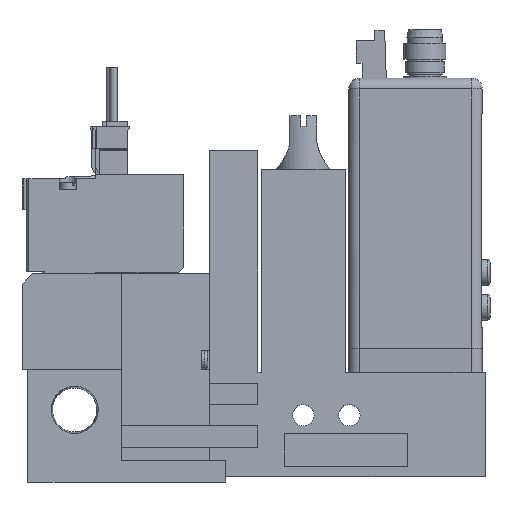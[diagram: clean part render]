
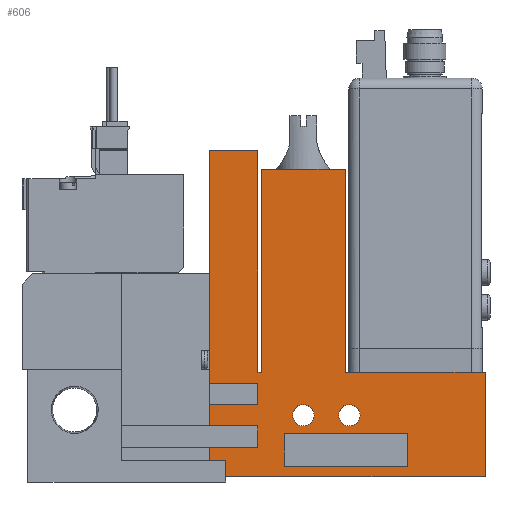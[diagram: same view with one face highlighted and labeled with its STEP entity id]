
A CAD part, top view. The second image highlights one B-rep face of the part: STEP entity #606.
In plain terms, the highlighted planar face has unit normal (0, 0, 1).
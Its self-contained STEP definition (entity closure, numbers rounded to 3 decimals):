
#606=ADVANCED_FACE('',(#1686,#1687,#1688,#1689),#1690,.T.);
#1686=FACE_OUTER_BOUND('',#3420,.T.);
#1687=FACE_BOUND('',#3421,.T.);
#1688=FACE_BOUND('',#3422,.T.);
#1689=FACE_BOUND('',#3423,.T.);
#1690=PLANE('',#3424);
#3420=EDGE_LOOP('',(#6887,#6888,#6889,#6890,#6891,#6892,#6893,#6894,#6895,#6896,#6897,#6898,#6899,#6900,#6901,#6902,#6903,#6904));
#3421=EDGE_LOOP('',(#6905,#6906,#6907,#6908));
#3422=EDGE_LOOP('',(#6909));
#3423=EDGE_LOOP('',(#6910));
#3424=AXIS2_PLACEMENT_3D('',#6911,#6912,#6913);
#6887=ORIENTED_EDGE('',*,*,#11531,.T.);
#6888=ORIENTED_EDGE('',*,*,#11437,.T.);
#6889=ORIENTED_EDGE('',*,*,#11532,.T.);
#6890=ORIENTED_EDGE('',*,*,#11533,.T.);
#6891=ORIENTED_EDGE('',*,*,#11534,.T.);
#6892=ORIENTED_EDGE('',*,*,#11522,.T.);
#6893=ORIENTED_EDGE('',*,*,#11535,.T.);
#6894=ORIENTED_EDGE('',*,*,#11518,.T.);
#6895=ORIENTED_EDGE('',*,*,#11536,.T.);
#6896=ORIENTED_EDGE('',*,*,#11492,.T.);
#6897=ORIENTED_EDGE('',*,*,#11516,.T.);
#6898=ORIENTED_EDGE('',*,*,#11514,.T.);
#6899=ORIENTED_EDGE('',*,*,#11408,.T.);
#6900=ORIENTED_EDGE('',*,*,#11405,.T.);
#6901=ORIENTED_EDGE('',*,*,#11412,.T.);
#6902=ORIENTED_EDGE('',*,*,#11499,.T.);
#6903=ORIENTED_EDGE('',*,*,#11497,.T.);
#6904=ORIENTED_EDGE('',*,*,#11501,.T.);
#6905=ORIENTED_EDGE('',*,*,#11537,.T.);
#6906=ORIENTED_EDGE('',*,*,#11430,.T.);
#6907=ORIENTED_EDGE('',*,*,#11538,.T.);
#6908=ORIENTED_EDGE('',*,*,#11539,.T.);
#6909=ORIENTED_EDGE('',*,*,#11506,.T.);
#6910=ORIENTED_EDGE('',*,*,#11540,.T.);
#6911=CARTESIAN_POINT('',(0.0,0.0,10.0));
#6912=DIRECTION('',(0.0,0.0,1.0));
#6913=DIRECTION('',(1.0,0.0,0.0));
#11405=EDGE_CURVE('',#13936,#13934,#13937,.T.);
#11408=EDGE_CURVE('',#13941,#13936,#13942,.T.);
#11412=EDGE_CURVE('',#13934,#13946,#13948,.T.);
#11430=EDGE_CURVE('',#13975,#13980,#13982,.T.);
#11437=EDGE_CURVE('',#13987,#13994,#13996,.T.);
#11492=EDGE_CURVE('',#14096,#14094,#14097,.T.);
#11497=EDGE_CURVE('',#14104,#14102,#14105,.T.);
#11499=EDGE_CURVE('',#13946,#14104,#14107,.T.);
#11501=EDGE_CURVE('',#14102,#14108,#14110,.T.);
#11506=EDGE_CURVE('',#14115,#14115,#14116,.T.);
#11514=EDGE_CURVE('',#14130,#13941,#14131,.T.);
#11516=EDGE_CURVE('',#14094,#14130,#14133,.T.);
#11518=EDGE_CURVE('',#14136,#14134,#14137,.T.);
#11522=EDGE_CURVE('',#14143,#14144,#14145,.T.);
#11531=EDGE_CURVE('',#14108,#13987,#14160,.T.);
#11532=EDGE_CURVE('',#13994,#14161,#14162,.T.);
#11533=EDGE_CURVE('',#14161,#14163,#14164,.T.);
#11534=EDGE_CURVE('',#14163,#14143,#14165,.T.);
#11535=EDGE_CURVE('',#14144,#14136,#14166,.T.);
#11536=EDGE_CURVE('',#14134,#14096,#14167,.T.);
#11537=EDGE_CURVE('',#14168,#13975,#14169,.T.);
#11538=EDGE_CURVE('',#13980,#14170,#14171,.T.);
#11539=EDGE_CURVE('',#14170,#14168,#14172,.T.);
#11540=EDGE_CURVE('',#14173,#14173,#14174,.T.);
#13934=VERTEX_POINT('',#17852);
#13936=VERTEX_POINT('',#17855);
#13937=LINE('',#17856,#17857);
#13941=VERTEX_POINT('',#17863);
#13942=LINE('',#17864,#17865);
#13946=VERTEX_POINT('',#17871);
#13948=LINE('',#17874,#17875);
#13975=VERTEX_POINT('',#17914);
#13980=VERTEX_POINT('',#17921);
#13982=LINE('',#17924,#17925);
#13987=VERTEX_POINT('',#17930);
#13994=VERTEX_POINT('',#17940);
#13996=LINE('',#17943,#17944);
#14094=VERTEX_POINT('',#18086);
#14096=VERTEX_POINT('',#18089);
#14097=LINE('',#18090,#18091);
#14102=VERTEX_POINT('',#18099);
#14104=VERTEX_POINT('',#18102);
#14105=LINE('',#18103,#18104);
#14107=LINE('',#18107,#18108);
#14108=VERTEX_POINT('',#18109);
#14110=LINE('',#18112,#18113);
#14115=VERTEX_POINT('',#18121);
#14116=CIRCLE('',#18122,2.0);
#14130=VERTEX_POINT('',#18143);
#14131=LINE('',#18144,#18145);
#14133=LINE('',#18148,#18149);
#14134=VERTEX_POINT('',#18150);
#14136=VERTEX_POINT('',#18153);
#14137=LINE('',#18154,#18155);
#14143=VERTEX_POINT('',#18164);
#14144=VERTEX_POINT('',#18165);
#14145=LINE('',#18166,#18167);
#14160=LINE('',#18190,#18191);
#14161=VERTEX_POINT('',#18192);
#14162=LINE('',#18193,#18194);
#14163=VERTEX_POINT('',#18195);
#14164=LINE('',#18196,#18197);
#14165=LINE('',#18198,#18199);
#14166=LINE('',#18200,#18201);
#14167=LINE('',#18202,#18203);
#14168=VERTEX_POINT('',#18204);
#14169=LINE('',#18205,#18206);
#14170=VERTEX_POINT('',#18207);
#14171=LINE('',#18208,#18209);
#14172=LINE('',#18210,#18211);
#14173=VERTEX_POINT('',#18212);
#14174=CIRCLE('',#18213,2.0);
#17852=CARTESIAN_POINT('',(44.75,57.5,10.0));
#17855=CARTESIAN_POINT('',(60.45,57.5,10.0));
#17856=CARTESIAN_POINT('',(60.45,57.5,10.0));
#17857=VECTOR('',#21987,1.0);
#17863=CARTESIAN_POINT('',(60.45,19.5,10.0));
#17864=CARTESIAN_POINT('',(60.45,19.5,10.0));
#17865=VECTOR('',#21990,1.0);
#17871=CARTESIAN_POINT('',(44.75,19.5,10.0));
#17874=CARTESIAN_POINT('',(44.75,57.5,10.0));
#17875=VECTOR('',#21994,1.0);
#17914=CARTESIAN_POINT('',(49.1,8.0,10.0));
#17921=CARTESIAN_POINT('',(72.1,8.0,10.0));
#17924=CARTESIAN_POINT('',(0.0,8.0,10.0));
#17925=VECTOR('',#22016,1.0);
#17930=CARTESIAN_POINT('',(35.1,17.5,10.0));
#17940=CARTESIAN_POINT('',(44.1,17.5,10.0));
#17943=CARTESIAN_POINT('',(0.0,17.5,10.0));
#17944=VECTOR('',#22027,1.0);
#18086=CARTESIAN_POINT('',(86.6,0.0,10.0));
#18089=CARTESIAN_POINT('',(35.1,0.0,10.0));
#18090=CARTESIAN_POINT('',(18.6,0.0,10.0));
#18091=VECTOR('',#22097,1.0);
#18099=CARTESIAN_POINT('',(44.1,61.0,10.0));
#18102=CARTESIAN_POINT('',(44.1,19.5,10.0));
#18103=CARTESIAN_POINT('',(44.1,19.5,10.0));
#18104=VECTOR('',#22102,1.0);
#18107=CARTESIAN_POINT('',(44.75,19.5,10.0));
#18108=VECTOR('',#22104,1.0);
#18109=CARTESIAN_POINT('',(35.1,61.0,10.0));
#18112=CARTESIAN_POINT('',(44.1,61.0,10.0));
#18113=VECTOR('',#22106,1.0);
#18121=CARTESIAN_POINT('',(54.6,11.5,10.0));
#18122=AXIS2_PLACEMENT_3D('',#22113,#22114,#22115);
#18143=CARTESIAN_POINT('',(86.6,19.5,10.0));
#18144=CARTESIAN_POINT('',(86.6,19.5,10.0));
#18145=VECTOR('',#22123,1.0);
#18148=CARTESIAN_POINT('',(86.6,0.0,10.0));
#18149=VECTOR('',#22125,1.0);
#18150=CARTESIAN_POINT('',(35.1,5.5,10.0));
#18153=CARTESIAN_POINT('',(44.1,5.5,10.0));
#18154=CARTESIAN_POINT('',(0.0,5.5,10.0));
#18155=VECTOR('',#22127,1.0);
#18164=CARTESIAN_POINT('',(35.1,9.5,10.0));
#18165=CARTESIAN_POINT('',(44.1,9.5,10.0));
#18166=CARTESIAN_POINT('',(0.0,9.5,10.0));
#18167=VECTOR('',#22131,1.0);
#18190=CARTESIAN_POINT('',(35.1,61.0,10.0));
#18191=VECTOR('',#22140,1.0);
#18192=CARTESIAN_POINT('',(44.1,13.5,10.0));
#18193=CARTESIAN_POINT('',(44.1,0.0,10.0));
#18194=VECTOR('',#22141,1.0);
#18195=CARTESIAN_POINT('',(35.1,13.5,10.0));
#18196=CARTESIAN_POINT('',(0.0,13.5,10.0));
#18197=VECTOR('',#22142,1.0);
#18198=CARTESIAN_POINT('',(35.1,0.0,10.0));
#18199=VECTOR('',#22143,1.0);
#18200=CARTESIAN_POINT('',(44.1,0.0,10.0));
#18201=VECTOR('',#22144,1.0);
#18202=CARTESIAN_POINT('',(35.1,0.0,10.0));
#18203=VECTOR('',#22145,1.0);
#18204=CARTESIAN_POINT('',(49.1,2.0,10.0));
#18205=CARTESIAN_POINT('',(49.1,0.0,10.0));
#18206=VECTOR('',#22146,1.0);
#18207=CARTESIAN_POINT('',(72.1,2.0,10.0));
#18208=CARTESIAN_POINT('',(72.1,0.0,10.0));
#18209=VECTOR('',#22147,1.0);
#18210=CARTESIAN_POINT('',(0.0,2.0,10.0));
#18211=VECTOR('',#22148,1.0);
#18212=CARTESIAN_POINT('',(63.2,11.5,10.0));
#18213=AXIS2_PLACEMENT_3D('',#22149,#22150,#22151);
#21987=DIRECTION('',(-1.0,0.0,0.0));
#21990=DIRECTION('',(0.0,1.0,0.0));
#21994=DIRECTION('',(0.0,-1.0,0.0));
#22016=DIRECTION('',(1.0,0.0,0.0));
#22027=DIRECTION('',(1.0,0.0,0.0));
#22097=DIRECTION('',(1.0,0.0,0.0));
#22102=DIRECTION('',(0.0,1.0,0.0));
#22104=DIRECTION('',(-1.0,0.0,0.0));
#22106=DIRECTION('',(-1.0,0.0,0.0));
#22113=CARTESIAN_POINT('',(52.6,11.5,10.0));
#22114=DIRECTION('',(0.0,0.0,-1.0));
#22115=DIRECTION('',(1.0,0.0,0.0));
#22123=DIRECTION('',(-1.0,0.0,0.0));
#22125=DIRECTION('',(0.0,1.0,0.0));
#22127=DIRECTION('',(-1.0,0.0,0.0));
#22131=DIRECTION('',(1.0,0.0,0.0));
#22140=DIRECTION('',(0.0,-1.0,0.0));
#22141=DIRECTION('',(0.0,-1.0,0.0));
#22142=DIRECTION('',(-1.0,0.0,0.0));
#22143=DIRECTION('',(0.0,-1.0,0.0));
#22144=DIRECTION('',(0.0,-1.0,0.0));
#22145=DIRECTION('',(0.0,-1.0,0.0));
#22146=DIRECTION('',(0.0,1.0,0.0));
#22147=DIRECTION('',(0.0,-1.0,0.0));
#22148=DIRECTION('',(-1.0,0.0,0.0));
#22149=CARTESIAN_POINT('',(61.2,11.5,10.0));
#22150=DIRECTION('',(0.0,0.0,-1.0));
#22151=DIRECTION('',(1.0,0.0,0.0));
